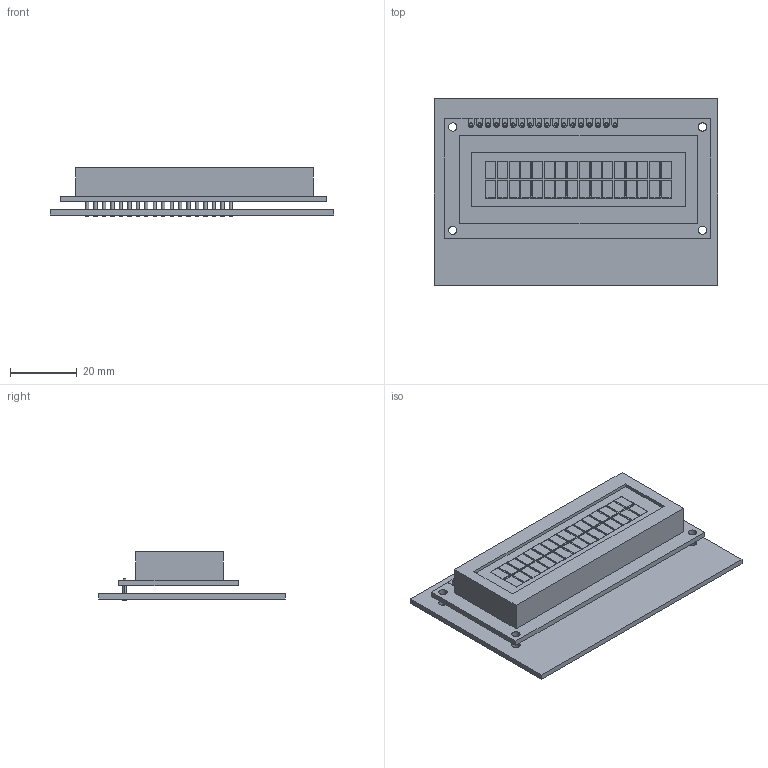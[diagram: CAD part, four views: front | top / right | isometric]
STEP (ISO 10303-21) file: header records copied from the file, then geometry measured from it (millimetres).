
FILE_DESCRIPTION (( 'STEP AP214' ), '1' );
FILE_NAME ('RGB LCD.STEP', '2018-05-10T20:45:45', ( '' ), ( '' ), 'SwSTEP 2.0', 'SolidWorks 2015', '' );
FILE_SCHEMA (( 'AUTOMOTIVE_DESIGN' ));
Length unit declared in the file: millimetre
Products named in the file (1): RGB LCD
Bounding box: 85 x 56 x 14.55 mm (x, y, z)
Volume: 27305.7 mm3; surface area: 18495.9 mm2
Topology: 20 solids, 20 shells, 646 faces, 1584 edges, 1044 vertices
Faces by surface type: plane 486, cylinder 124, cone 36
Entity records: 19945 total; most frequent: CARTESIAN_POINT 3275, ORIENTED_EDGE 3168, DIRECTION 3162, EDGE_CURVE 1584, VECTOR 1300, LINE 1300, VERTEX_POINT 1044, AXIS2_PLACEMENT_3D 931
